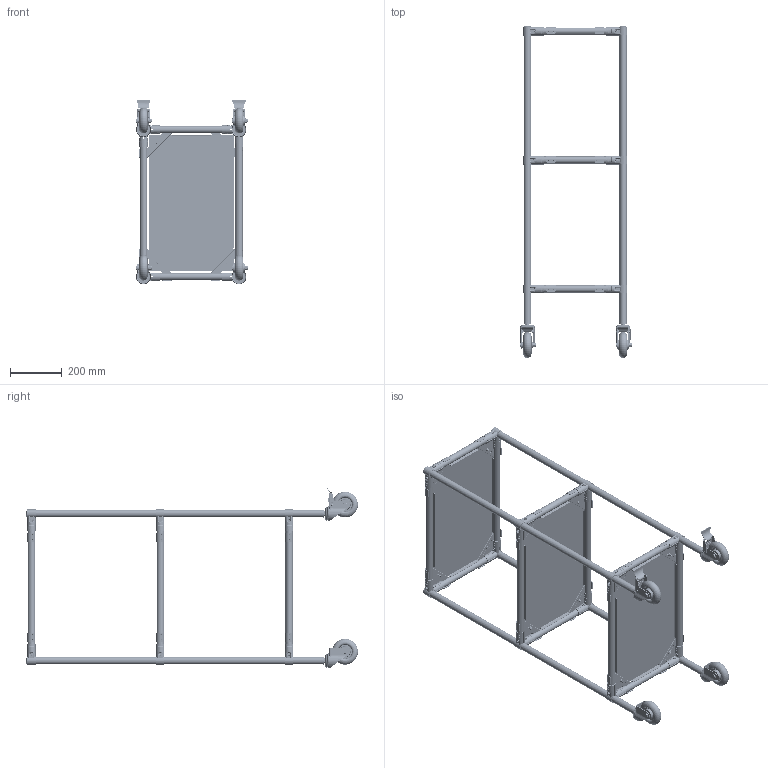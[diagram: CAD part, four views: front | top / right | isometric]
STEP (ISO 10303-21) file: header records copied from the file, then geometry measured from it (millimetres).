
FILE_DESCRIPTION (( 'STEP AP214' ), '1' );
FILE_NAME ('RSI-MST-600x400x1300-3.STEP', '2026-01-29T06:28:08', ( '' ), ( '' ), 'SwSTEP 2.0', 'SolidWorks 2022', '' );
FILE_SCHEMA (( 'AUTOMOTIVE_DESIGN' ));
Length unit declared in the file: millimetre
Products named in the file (19): PR-28X3-A_L=500 мм; Шайба DIN125_6; Зеркально отразитьfh-1010b; Шайба DIN7980_D8 DIN 7980; df-2b_Кронштейн соединительный DF2B; FHJ-404; RSI-MST-600x400x1300-3; Гайка DIN934_M6; F-170; Polka RSI-MST-600x400x900-2; PR-28X3-A_L=1150 мм; PR-28X3-A_L=300 мм; fh-1010b; FHJ-405; f-110-x.stp; D-2; F-180-1; D-3; Винт полусфера ISO 7380_М6х16
Assembly tree (105 placements, depth 3):
  RSI-MST-600x400x1300-3
    PR-28X3-A_L=500 мм  x6
    df-2b_Кронштейн соединительный DF2B  x12
      D-2
      D-3
      F-180-1
      F-170
    PR-28X3-A_L=1150 мм  x4
    PR-28X3-A_L=300 мм  x6
    f-110-x.stp  x4
    FHJ-405  x2
    FHJ-404  x2
    fh-1010b  x6
    Зеркально отразитьfh-1010b  x6
    Polka RSI-MST-600x400x900-2  x3
    Винт полусфера ISO 7380_М6х16  x12
    Шайба DIN125_6  x12
    Шайба DIN7980_D8 DIN 7980  x12
    Гайка DIN934_M6  x12
Bounding box: 435 x 1287.4 x 716 mm (x, y, z)
Volume: 5014861.2 mm3; surface area: 3457152.5 mm2
Topology: 161 solids, 161 shells, 9274 faces, 23664 edges, 15092 vertices
Faces by surface type: cylinder 3774, plane 2572, bspline 1312, cone 752, torus 632, sphere 232
Entity records: 83657 total; most frequent: CARTESIAN_POINT 47300, ORIENTED_EDGE 7132, DIRECTION 6137, EDGE_CURVE 3566, AXIS2_PLACEMENT_3D 2438, VERTEX_POINT 2261, EDGE_LOOP 1541, ADVANCED_FACE 1414
